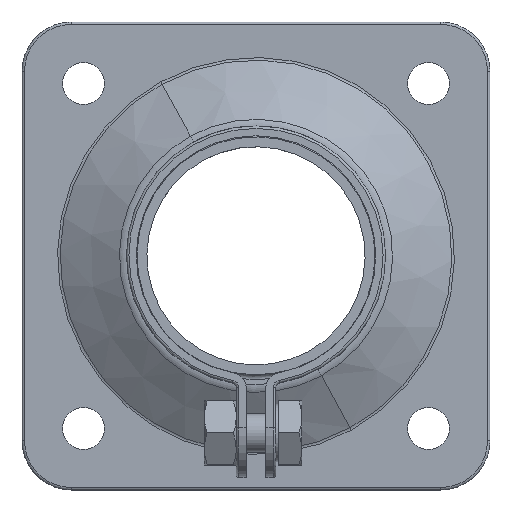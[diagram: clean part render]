
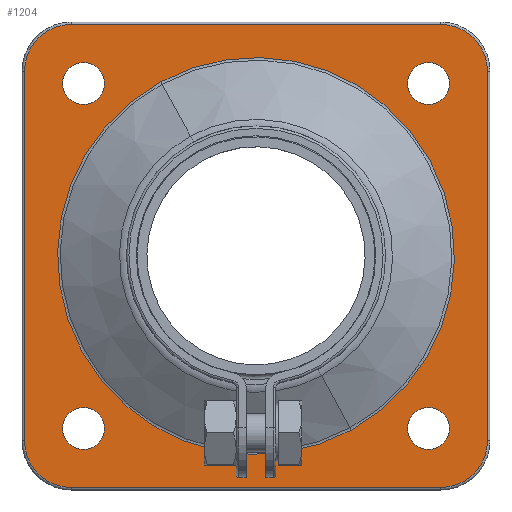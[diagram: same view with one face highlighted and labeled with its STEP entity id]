
A CAD part, top view. The second image highlights one B-rep face of the part: STEP entity #1204.
In plain terms, the highlighted planar face has unit normal (0, 0, 1).
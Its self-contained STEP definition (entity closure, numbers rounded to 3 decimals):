
#424=CARTESIAN_POINT('Axis2P3D Location',(35.,35.,2.)) ;
#428=CARTESIAN_POINT('Vertex',(30.75,35.,2.)) ;
#430=CARTESIAN_POINT('Vertex',(39.25,35.,2.)) ;
#459=CARTESIAN_POINT('Axis2P3D Location',(35.,35.,2.)) ;
#481=CARTESIAN_POINT('Axis2P3D Location',(35.,-35.,2.)) ;
#485=CARTESIAN_POINT('Vertex',(30.75,-35.,2.)) ;
#487=CARTESIAN_POINT('Vertex',(39.25,-35.,2.)) ;
#516=CARTESIAN_POINT('Axis2P3D Location',(35.,-35.,2.)) ;
#538=CARTESIAN_POINT('Axis2P3D Location',(-35.,35.,2.)) ;
#542=CARTESIAN_POINT('Vertex',(-39.25,35.,2.)) ;
#544=CARTESIAN_POINT('Vertex',(-30.75,35.,2.)) ;
#573=CARTESIAN_POINT('Axis2P3D Location',(-35.,35.,2.)) ;
#595=CARTESIAN_POINT('Axis2P3D Location',(-35.,-35.,2.)) ;
#599=CARTESIAN_POINT('Vertex',(-39.25,-35.,2.)) ;
#601=CARTESIAN_POINT('Vertex',(-30.75,-35.,2.)) ;
#630=CARTESIAN_POINT('Axis2P3D Location',(-35.,-35.,2.)) ;
#699=CARTESIAN_POINT('Vertex',(19.313,-35.352,2.)) ;
#702=CARTESIAN_POINT('Axis2P3D Location',(0.,0.,2.)) ;
#706=CARTESIAN_POINT('Vertex',(-19.313,35.352,2.)) ;
#726=CARTESIAN_POINT('Axis2P3D Location',(0.,0.,2.)) ;
#1113=CARTESIAN_POINT('Axis2P3D Location',(0.,0.,2.)) ;
#1118=CARTESIAN_POINT('Line Origine',(0.,-47.,2.)) ;
#1122=CARTESIAN_POINT('Vertex',(-37.5,-47.,2.)) ;
#1124=CARTESIAN_POINT('Vertex',(37.5,-47.,2.)) ;
#1127=CARTESIAN_POINT('Axis2P3D Location',(37.5,-37.5,2.)) ;
#1131=CARTESIAN_POINT('Vertex',(47.,-37.5,2.)) ;
#1134=CARTESIAN_POINT('Line Origine',(47.,0.,2.)) ;
#1138=CARTESIAN_POINT('Vertex',(47.,37.5,2.)) ;
#1141=CARTESIAN_POINT('Axis2P3D Location',(37.5,37.5,2.)) ;
#1145=CARTESIAN_POINT('Vertex',(37.5,47.,2.)) ;
#1148=CARTESIAN_POINT('Line Origine',(0.,47.,2.)) ;
#1152=CARTESIAN_POINT('Vertex',(-37.5,47.,2.)) ;
#1155=CARTESIAN_POINT('Axis2P3D Location',(-37.5,37.5,2.)) ;
#1159=CARTESIAN_POINT('Vertex',(-47.,37.5,2.)) ;
#1162=CARTESIAN_POINT('Line Origine',(-47.,0.,2.)) ;
#1166=CARTESIAN_POINT('Vertex',(-47.,-37.5,2.)) ;
#1169=CARTESIAN_POINT('Axis2P3D Location',(-37.5,-37.5,2.)) ;
#425=DIRECTION('Axis2P3D Direction',(0.,0.,1.)) ;
#460=DIRECTION('Axis2P3D Direction',(0.,0.,1.)) ;
#482=DIRECTION('Axis2P3D Direction',(0.,0.,1.)) ;
#517=DIRECTION('Axis2P3D Direction',(0.,0.,1.)) ;
#539=DIRECTION('Axis2P3D Direction',(0.,0.,1.)) ;
#574=DIRECTION('Axis2P3D Direction',(0.,0.,1.)) ;
#596=DIRECTION('Axis2P3D Direction',(0.,0.,1.)) ;
#631=DIRECTION('Axis2P3D Direction',(0.,0.,1.)) ;
#703=DIRECTION('Axis2P3D Direction',(0.,0.,1.)) ;
#727=DIRECTION('Axis2P3D Direction',(0.,-0.,1.)) ;
#1114=DIRECTION('Axis2P3D Direction',(0.,0.,1.)) ;
#1115=DIRECTION('Axis2P3D XDirection',(1.,0.,0.)) ;
#1119=DIRECTION('Vector Direction',(-1.,0.,0.)) ;
#1128=DIRECTION('Axis2P3D Direction',(0.,0.,1.)) ;
#1135=DIRECTION('Vector Direction',(0.,-1.,0.)) ;
#1142=DIRECTION('Axis2P3D Direction',(0.,0.,1.)) ;
#1149=DIRECTION('Vector Direction',(1.,0.,0.)) ;
#1156=DIRECTION('Axis2P3D Direction',(0.,0.,1.)) ;
#1163=DIRECTION('Vector Direction',(0.,1.,0.)) ;
#1170=DIRECTION('Axis2P3D Direction',(0.,0.,1.)) ;
#426=AXIS2_PLACEMENT_3D('Circle Axis2P3D',#424,#425,$) ;
#461=AXIS2_PLACEMENT_3D('Circle Axis2P3D',#459,#460,$) ;
#483=AXIS2_PLACEMENT_3D('Circle Axis2P3D',#481,#482,$) ;
#518=AXIS2_PLACEMENT_3D('Circle Axis2P3D',#516,#517,$) ;
#540=AXIS2_PLACEMENT_3D('Circle Axis2P3D',#538,#539,$) ;
#575=AXIS2_PLACEMENT_3D('Circle Axis2P3D',#573,#574,$) ;
#597=AXIS2_PLACEMENT_3D('Circle Axis2P3D',#595,#596,$) ;
#632=AXIS2_PLACEMENT_3D('Circle Axis2P3D',#630,#631,$) ;
#704=AXIS2_PLACEMENT_3D('Circle Axis2P3D',#702,#703,$) ;
#728=AXIS2_PLACEMENT_3D('Circle Axis2P3D',#726,#727,$) ;
#1116=AXIS2_PLACEMENT_3D('Plane Axis2P3D',#1113,#1114,#1115) ;
#1129=AXIS2_PLACEMENT_3D('Circle Axis2P3D',#1127,#1128,$) ;
#1143=AXIS2_PLACEMENT_3D('Circle Axis2P3D',#1141,#1142,$) ;
#1157=AXIS2_PLACEMENT_3D('Circle Axis2P3D',#1155,#1156,$) ;
#1171=AXIS2_PLACEMENT_3D('Circle Axis2P3D',#1169,#1170,$) ;
#1175=ORIENTED_EDGE('',*,*,#1126,.T.) ;
#1176=ORIENTED_EDGE('',*,*,#1133,.T.) ;
#1177=ORIENTED_EDGE('',*,*,#1140,.T.) ;
#1178=ORIENTED_EDGE('',*,*,#1147,.T.) ;
#1179=ORIENTED_EDGE('',*,*,#1154,.T.) ;
#1180=ORIENTED_EDGE('',*,*,#1161,.T.) ;
#1181=ORIENTED_EDGE('',*,*,#1168,.T.) ;
#1182=ORIENTED_EDGE('',*,*,#1173,.T.) ;
#1185=ORIENTED_EDGE('',*,*,#730,.T.) ;
#1186=ORIENTED_EDGE('',*,*,#708,.T.) ;
#1189=ORIENTED_EDGE('',*,*,#432,.F.) ;
#1190=ORIENTED_EDGE('',*,*,#463,.F.) ;
#1193=ORIENTED_EDGE('',*,*,#489,.F.) ;
#1194=ORIENTED_EDGE('',*,*,#520,.F.) ;
#1197=ORIENTED_EDGE('',*,*,#546,.F.) ;
#1198=ORIENTED_EDGE('',*,*,#577,.F.) ;
#1201=ORIENTED_EDGE('',*,*,#603,.F.) ;
#1202=ORIENTED_EDGE('',*,*,#634,.F.) ;
#1187=FACE_BOUND('',#1184,.T.) ;
#1191=FACE_BOUND('',#1188,.T.) ;
#1195=FACE_BOUND('',#1192,.T.) ;
#1199=FACE_BOUND('',#1196,.T.) ;
#1203=FACE_BOUND('',#1200,.T.) ;
#1120=VECTOR('Line Direction',#1119,1.) ;
#1136=VECTOR('Line Direction',#1135,1.) ;
#1150=VECTOR('Line Direction',#1149,1.) ;
#1164=VECTOR('Line Direction',#1163,1.) ;
#1204=ADVANCED_FACE('PartBody',(#1183,#1187,#1191,#1195,#1199,#1203),#1117,.T.) ;
#427=CIRCLE('generated circle',#426,4.25) ;
#462=CIRCLE('generated circle',#461,4.25) ;
#484=CIRCLE('generated circle',#483,4.25) ;
#519=CIRCLE('generated circle',#518,4.25) ;
#541=CIRCLE('generated circle',#540,4.25) ;
#576=CIRCLE('generated circle',#575,4.25) ;
#598=CIRCLE('generated circle',#597,4.25) ;
#633=CIRCLE('generated circle',#632,4.25) ;
#705=CIRCLE('generated circle',#704,40.283) ;
#729=CIRCLE('generated circle',#728,40.283) ;
#1130=CIRCLE('generated circle',#1129,9.5) ;
#1144=CIRCLE('generated circle',#1143,9.5) ;
#1158=CIRCLE('generated circle',#1157,9.5) ;
#1172=CIRCLE('generated circle',#1171,9.5) ;
#432=EDGE_CURVE('',#429,#431,#427,.T.) ;
#463=EDGE_CURVE('',#431,#429,#462,.T.) ;
#489=EDGE_CURVE('',#486,#488,#484,.T.) ;
#520=EDGE_CURVE('',#488,#486,#519,.T.) ;
#546=EDGE_CURVE('',#543,#545,#541,.T.) ;
#577=EDGE_CURVE('',#545,#543,#576,.T.) ;
#603=EDGE_CURVE('',#600,#602,#598,.T.) ;
#634=EDGE_CURVE('',#602,#600,#633,.T.) ;
#708=EDGE_CURVE('',#707,#700,#705,.F.) ;
#730=EDGE_CURVE('',#700,#707,#729,.F.) ;
#1126=EDGE_CURVE('',#1123,#1125,#1121,.F.) ;
#1133=EDGE_CURVE('',#1125,#1132,#1130,.T.) ;
#1140=EDGE_CURVE('',#1132,#1139,#1137,.F.) ;
#1147=EDGE_CURVE('',#1139,#1146,#1144,.T.) ;
#1154=EDGE_CURVE('',#1146,#1153,#1151,.F.) ;
#1161=EDGE_CURVE('',#1153,#1160,#1158,.T.) ;
#1168=EDGE_CURVE('',#1160,#1167,#1165,.F.) ;
#1173=EDGE_CURVE('',#1167,#1123,#1172,.T.) ;
#1174=EDGE_LOOP('',(#1175,#1176,#1177,#1178,#1179,#1180,#1181,#1182)) ;
#1184=EDGE_LOOP('',(#1185,#1186)) ;
#1188=EDGE_LOOP('',(#1189,#1190)) ;
#1192=EDGE_LOOP('',(#1193,#1194)) ;
#1196=EDGE_LOOP('',(#1197,#1198)) ;
#1200=EDGE_LOOP('',(#1201,#1202)) ;
#1183=FACE_OUTER_BOUND('',#1174,.T.) ;
#1121=LINE('Line',#1118,#1120) ;
#1137=LINE('Line',#1134,#1136) ;
#1151=LINE('Line',#1148,#1150) ;
#1165=LINE('Line',#1162,#1164) ;
#1117=PLANE('',#1116) ;
#429=VERTEX_POINT('',#428) ;
#431=VERTEX_POINT('',#430) ;
#486=VERTEX_POINT('',#485) ;
#488=VERTEX_POINT('',#487) ;
#543=VERTEX_POINT('',#542) ;
#545=VERTEX_POINT('',#544) ;
#600=VERTEX_POINT('',#599) ;
#602=VERTEX_POINT('',#601) ;
#700=VERTEX_POINT('',#699) ;
#707=VERTEX_POINT('',#706) ;
#1123=VERTEX_POINT('',#1122) ;
#1125=VERTEX_POINT('',#1124) ;
#1132=VERTEX_POINT('',#1131) ;
#1139=VERTEX_POINT('',#1138) ;
#1146=VERTEX_POINT('',#1145) ;
#1153=VERTEX_POINT('',#1152) ;
#1160=VERTEX_POINT('',#1159) ;
#1167=VERTEX_POINT('',#1166) ;
